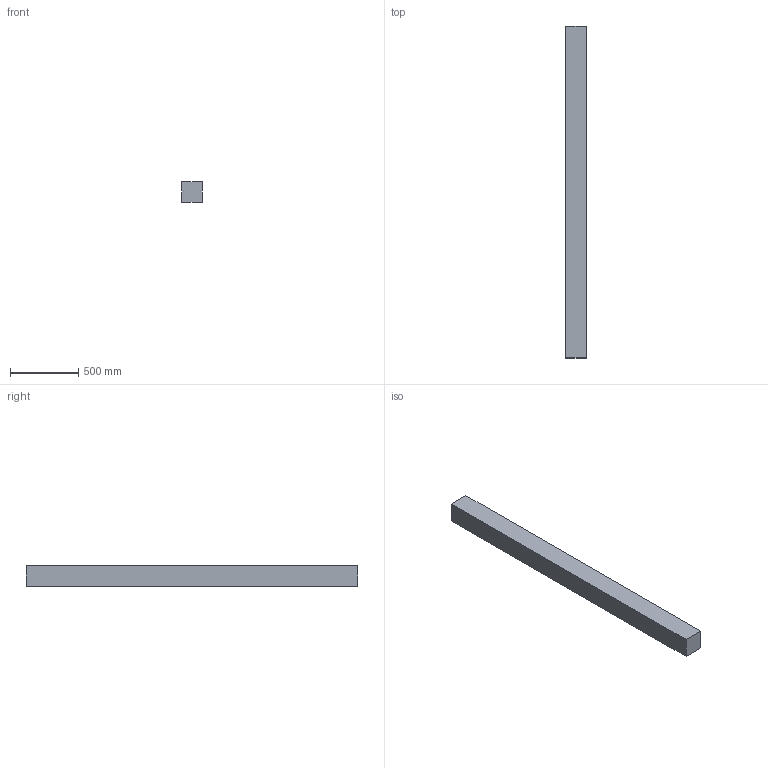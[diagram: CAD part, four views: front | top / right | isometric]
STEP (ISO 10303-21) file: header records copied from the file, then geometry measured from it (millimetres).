
FILE_DESCRIPTION(/* description */ (''),/* implementation_level */ '2;1');
FILE_NAME(/* name */ '6x6x96',/* time_stamp */ '2024-09-20T11:47:22-05:00',/* author */ (''),/* organization */ (''),/* preprocessor_version */ 'ST-DEVELOPER v19.2',/* originating_system */ 'Rhino 8.5',/* authorisation */ '');
FILE_SCHEMA (('CONFIG_CONTROL_DESIGN'));
Length unit declared in the file: inch
Products named in the file (1): Document
Bounding box: 152.4 x 2438.4 x 152.4 mm (x, y, z)
Volume: 56633693.2 mm3; surface area: 1532900.2 mm2
Topology: 1 solids, 1 shells, 6 faces, 12 edges, 8 vertices
Faces by surface type: plane 6
Entity records: 226 total; most frequent: CARTESIAN_POINT 40, ORIENTED_EDGE 24, EDGE_CURVE 12, B_SPLINE_CURVE_WITH_KNOTS 12, DIRECTION 10, VERTEX_POINT 8, AXIS2_PLACEMENT_3D 8, ORGANIZATION 7
